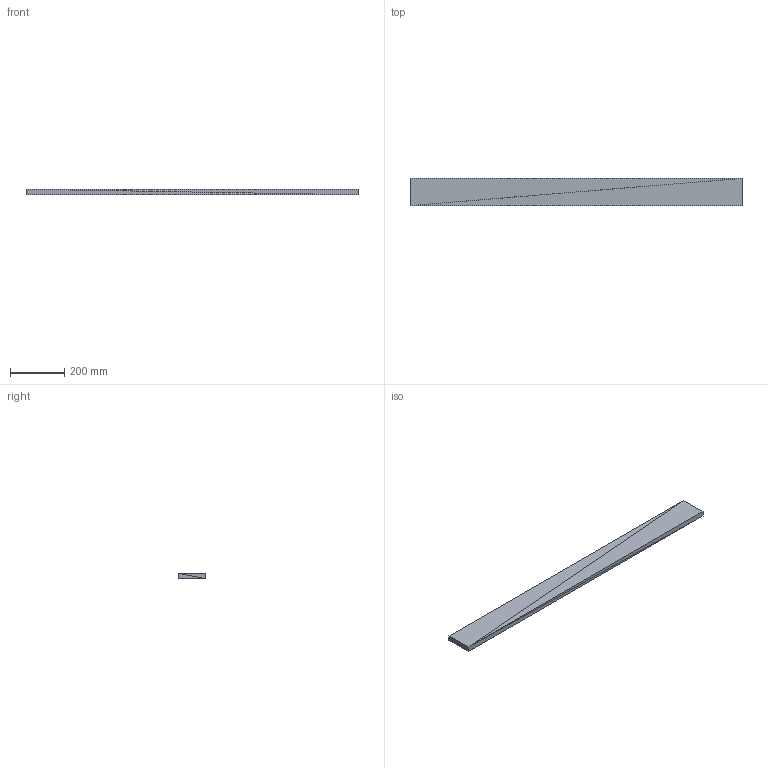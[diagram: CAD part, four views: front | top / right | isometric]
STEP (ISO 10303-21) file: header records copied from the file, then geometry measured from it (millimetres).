
FILE_DESCRIPTION(('ISINAC STEP AP214'),'2;1');
FILE_NAME('ISINAC_R.1220.100_20mm_ADHESIVO','2026-05-03T10:49:19',('ISINAC'),('www.isinac.com'),'ISINAC BIM Generator 1.0','','');
FILE_SCHEMA(('AUTOMOTIVE_DESIGN'));
Length unit declared in the file: millimetre
Products named in the file (1): ISINAC_R.1220.100_20mm_ADHESIVO
Bounding box: 1220 x 100 x 20 mm (x, y, z)
Surface area: 296800 mm2 (no closed solid volume)
Topology: 0 solids, 12 shells, 12 faces, 36 edges, 36 vertices
Faces by surface type: plane 12
Entity records: 145 total; most frequent: CARTESIAN_POINT 48, DIRECTION 24, POLY_LOOP 12, FACE_OUTER_BOUND 12, AXIS2_PLACEMENT_3D 12, PLANE 12, FACE_SURFACE 12, CLOSED_SHELL 1
